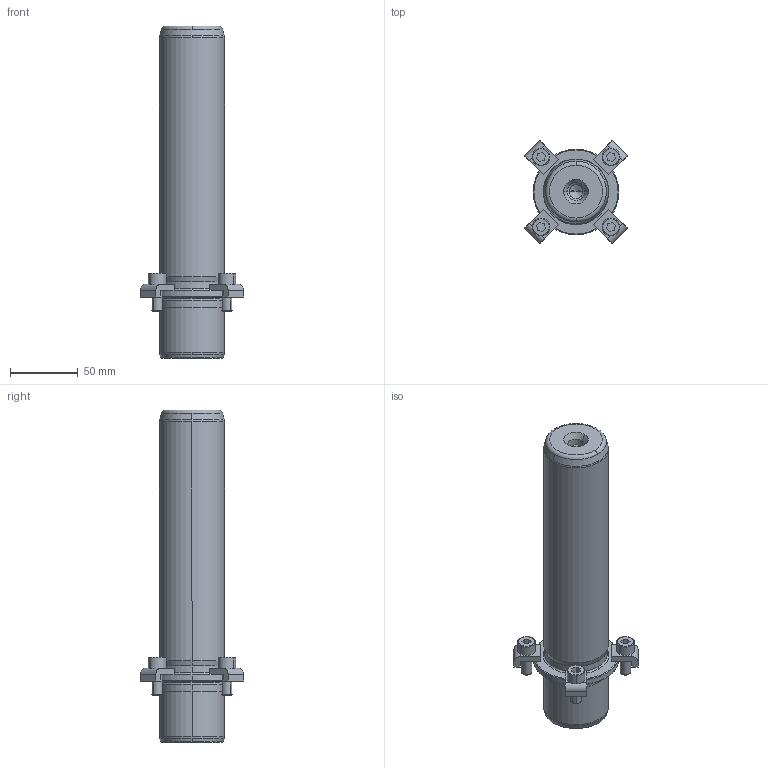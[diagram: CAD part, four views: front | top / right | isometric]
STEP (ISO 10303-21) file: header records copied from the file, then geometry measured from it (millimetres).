
FILE_DESCRIPTION((''),'2;1');
FILE_NAME('P21_048_200.stp','2008-12-23T13:38:40',(''),(''),'Mechanical Desktop 2009','Mechanical Desktop 2009',', , ');
FILE_SCHEMA(('CONFIG_CONTROL_DESIGN'));
Length unit declared in the file: millimetre
Products named in the file (2): Product; blmdl1
Assembly tree (1 placements, depth 2):
  Product
    blmdl1
Bounding box: 76.01 x 76.01 x 245 mm (x, y, z)
Volume: 452413.6 mm3; surface area: 54360.9 mm2
Topology: 9 solids, 9 shells, 195 faces, 477 edges, 309 vertices
Faces by surface type: plane 77, cylinder 52, cone 34, torus 16, bspline 16
Entity records: 6547 total; most frequent: CARTESIAN_POINT 1683, DIRECTION 1078, ORIENTED_EDGE 946, EDGE_CURVE 473, AXIS2_PLACEMENT_3D 424, VERTEX_POINT 309, CIRCLE 243, VECTOR 230
